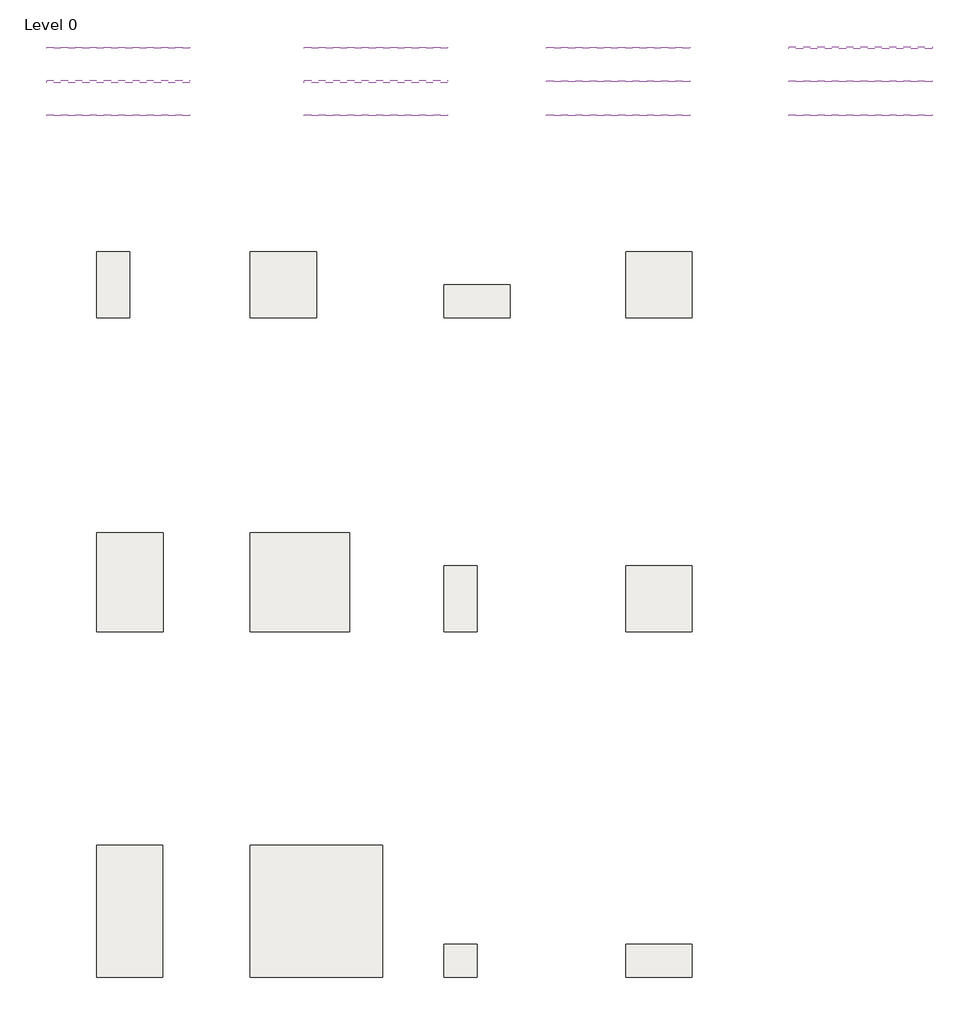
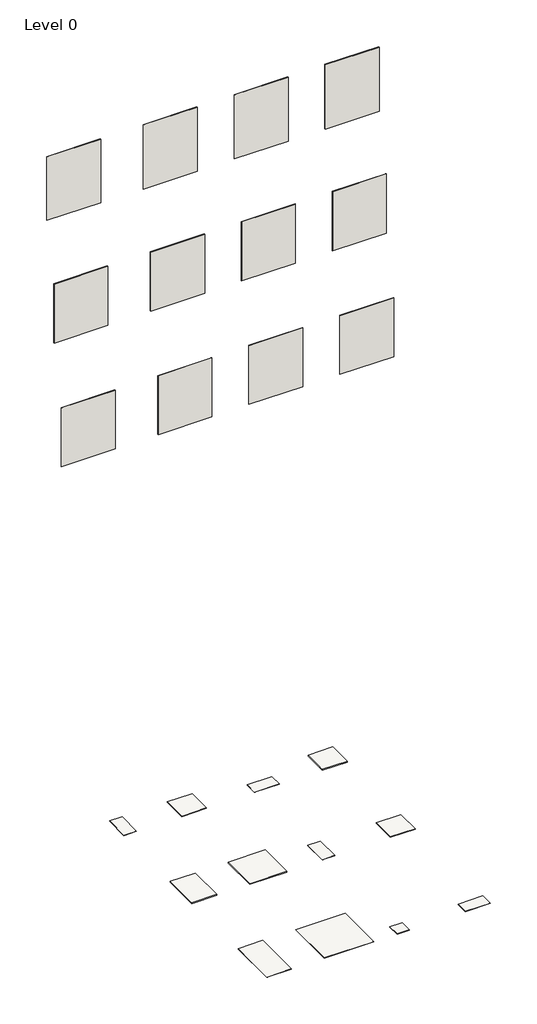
# One storey: 12 slabs, 12 walls.
"""IFC4 building model written with IfcOpenShell, lengths in millimetres."""

from ifc_helpers import new_model, si_unit, frame, origin, place, context, project, spatial, polyline, outline, extrude, element, save

model = new_model("IFC4")

# Units and contexts
model_context = context("Model", 3, world=origin())
ifc_project = project(units=[si_unit("LENGTHUNIT", "METRE", prefix="MILLI")], contexts=[model_context])

# Site, building, storey
site = spatial("IfcSite", under=ifc_project)
building = spatial("IfcBuilding", under=site)
storey = spatial("IfcBuildingStorey", under=building, Name="Level 0", Elevation=0.0)

# Slabs
placement = place(None, origin())
element("IfcSlab", 1, ObjectType="Floor_Tiles_Refin-Tune-Rock-Muretto-3D-30x60 MK49", at=placement, inside=storey, context=model_context, shape_type="SweptSolid", body=[
    extrude(outline(polyline([(10127.1861419, 5989.4623743), (10127.1861419, 5689.4623743), (9527.1861419, 5689.4623743), (9527.1861419, 5989.4623743), (10127.1861419, 5989.4623743)])), frame((0.0, 0.0, -11.0), z_axis=(0.0, 0.0, 1.0), x_axis=(1.0, 0.0, 0.0)), (0.0, 0.0, 1.0), 11.0),
])
element("IfcSlab", 2, ObjectType="Floor_Tiles_Refin-Tune-Rock-30x60 NB09", at=placement, inside=storey, context=model_context, shape_type="SweptSolid", body=[
    extrude(outline(polyline([(6674.3752062, 6289.4623743), (6674.3752062, 5689.4623743), (6374.3752062, 5689.4623743), (6374.3752062, 6289.4623743), (6674.3752062, 6289.4623743)])), frame((0.0, 0.0, -10.0), z_axis=(0.0, 0.0, 1.0), x_axis=(1.0, 0.0, 0.0)), (0.0, 0.0, 1.0), 10.0),
])
element("IfcSlab", 3, ObjectType="Floor_Tiles_Refin-Tune-Rock-OUT2.0-90x90 NA08", at=placement, inside=storey, context=model_context, shape_type="SweptSolid", body=[
    extrude(outline(polyline([(8667.3924055, 3739.4623743), (8667.3924055, 2839.4623743), (7767.3924055, 2839.4623743), (7767.3924055, 3739.4623743), (8667.3924055, 3739.4623743)])), frame((0.0, 0.0, -21.0), z_axis=(0.0, 0.0, 1.0), x_axis=(1.0, 0.0, 0.0)), (0.0, 0.0, 1.0), 21.0),
])
element("IfcSlab", 4, ObjectType="Floor_Tiles_Refin-Tune-Rock-OUT2.0-60x90 NH51", at=placement, inside=storey, context=model_context, shape_type="SweptSolid", body=[
    extrude(outline(polyline([(6974.3752062, 3739.4623743), (6974.3752062, 2839.4623743), (6374.3752062, 2839.4623743), (6374.3752062, 3739.4623743), (6974.3752062, 3739.4623743)])), frame((0.0, 0.0, -21.0), z_axis=(0.0, 0.0, 1.0), x_axis=(1.0, 0.0, 0.0)), (0.0, 0.0, 1.0), 21.0),
])
element("IfcSlab", 5, ObjectType="Floor_Tiles_Refin-Tune-Rock-60x60 NB21", at=placement, inside=storey, context=model_context, shape_type="SweptSolid", body=[
    extrude(outline(polyline([(8367.3924055, 6288.4192064), (8367.3924055, 5688.4192064), (7767.3924055, 5688.4192064), (7767.3924055, 6288.4192064), (8367.3924055, 6288.4192064)])), frame((0.0, 0.0, -10.0), z_axis=(0.0, 0.0, 1.0), x_axis=(1.0, 0.0, 0.0)), (0.0, 0.0, 1.0), 10.0),
])
element("IfcSlab", 6, ObjectType="Floor_Tiles_Refin-Tune-Rock-Soft-60x120 NA88", at=placement, inside=storey, context=model_context, shape_type="SweptSolid", body=[
    extrude(outline(polyline([(6972.6009331, 903.4367235), (6972.6009331, -296.5632765), (6372.6009331, -296.5632765), (6372.6009331, 903.4367235), (6972.6009331, 903.4367235)])), frame((0.0, 0.0, -10.0), z_axis=(0.0, 0.0, 1.0), x_axis=(1.0, 0.0, 0.0)), (0.0, 0.0, 1.0), 10.0),
])
element("IfcSlab", 7, ObjectType="Floor_Tiles_Refin-Tune-Rock-OUT2.0-60x60 NH55", at=placement, inside=storey, context=model_context, shape_type="SweptSolid", body=[
    extrude(outline(polyline([(11777.1861419, 6289.4623743), (11777.1861419, 5689.4623743), (11177.1861419, 5689.4623743), (11177.1861419, 6289.4623743), (11777.1861419, 6289.4623743)])), frame((0.0, 0.0, -21.0), z_axis=(0.0, 0.0, 1.0), x_axis=(1.0, 0.0, 0.0)), (0.0, 0.0, 1.0), 21.0),
])
element("IfcSlab", 8, ObjectType="Floor_Tiles_Refin-Tune-Rock-Soft-30x60 NB10", at=placement, inside=storey, context=model_context, shape_type="SweptSolid", body=[
    extrude(outline(polyline([(9827.1861419, 3439.4623743), (9827.1861419, 2839.4623743), (9527.1861419, 2839.4623743), (9527.1861419, 3439.4623743), (9827.1861419, 3439.4623743)])), frame((0.0, 0.0, -10.0), z_axis=(0.0, 0.0, 1.0), x_axis=(1.0, 0.0, 0.0)), (0.0, 0.0, 1.0), 10.0),
])
element("IfcSlab", 9, ObjectType="Floor_Tiles_Refin-Tune-Rock-Mosaico-Soft-30x30 NA43", at=placement, inside=storey, context=model_context, shape_type="SweptSolid", body=[
    extrude(outline(polyline([(9827.1861419, 3.4367235), (9827.1861419, -296.5632765), (9527.1861419, -296.5632765), (9527.1861419, 3.4367235), (9827.1861419, 3.4367235)])), frame((0.0, 0.0, -10.0), z_axis=(0.0, 0.0, 1.0), x_axis=(1.0, 0.0, 0.0)), (0.0, 0.0, 1.0), 10.0),
])
element("IfcSlab", 10, ObjectType="Floor_Tiles_Refin-Tune-Rock-Soft-60x60 NB22", at=placement, inside=storey, context=model_context, shape_type="SweptSolid", body=[
    extrude(outline(polyline([(11777.1861419, 3439.4623743), (11777.1861419, 2839.4623743), (11177.1861419, 2839.4623743), (11177.1861419, 3439.4623743), (11777.1861419, 3439.4623743)])), frame((0.0, 0.0, -10.0), z_axis=(0.0, 0.0, 1.0), x_axis=(1.0, 0.0, 0.0)), (0.0, 0.0, 1.0), 10.0),
])
element("IfcSlab", 11, ObjectType="Floor_Tiles_Refin-Tune-Rock-Soft-120x120 MK15", at=placement, inside=storey, context=model_context, shape_type="SweptSolid", body=[
    extrude(outline(polyline([(8967.3924055, 903.4367235), (8967.3924055, -296.5632765), (7767.3924055, -296.5632765), (7767.3924055, 903.4367235), (8967.3924055, 903.4367235)])), frame((0.0, 0.0, -10.0), z_axis=(0.0, 0.0, 1.0), x_axis=(1.0, 0.0, 0.0)), (0.0, 0.0, 1.0), 10.0),
])
element("IfcSlab", 12, ObjectType="Floor_Tiles_Refin-Tune-Rock-Mosaico-Linea-Soft-30x60 NA22", at=placement, inside=storey, context=model_context, shape_type="SweptSolid", body=[
    extrude(outline(polyline([(11777.1861419, 3.4367235), (11777.1861419, -296.5632765), (11177.1861419, -296.5632765), (11177.1861419, 3.4367235), (11777.1861419, 3.4367235)])), frame((0.0, 0.0, -10.0), z_axis=(0.0, 0.0, 1.0), x_axis=(1.0, 0.0, 0.0)), (0.0, 0.0, 1.0), 10.0),
])

# Walls
element("IfcWall", 13, ObjectType="Wall_Tiles_Refin-Tune-Rock-60x60 NB21", at=placement, inside=storey, context=model_context, shape_type="SweptSolid", body=[
    extrude(outline(polyline([(9557.3752062, 8132.3838631), (8257.3752062, 8132.3838631), (8257.3752062, 8142.3838631), (9557.3752062, 8142.3838631), (9557.3752062, 8132.3838631)])), frame((0.0, 0.0, 14387.6770443), z_axis=(0.0, 0.0, 1.0), x_axis=(1.0, 0.0, 0.0)), (0.0, 0.0, 1.0), 1641.7417352),
])
element("IfcWall", 14, ObjectType="Wall_Tiles_Refin-Tune-Rock-Muretto-3D-30x60 MK49", at=placement, inside=storey, context=model_context, shape_type="SweptSolid", body=[
    extrude(outline(polyline([(11757.3752062, 8131.8838631), (10457.3752062, 8131.8838631), (10457.3752062, 8142.8838631), (11757.3752062, 8142.8838631), (11757.3752062, 8131.8838631)])), frame((0.0, 0.0, 14387.6770443), z_axis=(0.0, 0.0, 1.0), x_axis=(1.0, 0.0, 0.0)), (0.0, 0.0, 1.0), 1641.7417352),
])
element("IfcWall", 15, ObjectType="Wall_Tiles_Refin-Tune-Rock-30x60 NB09", at=placement, inside=storey, context=model_context, shape_type="SweptSolid", body=[
    extrude(outline(polyline([(7217.3752062, 8132.3838631), (5917.3752062, 8132.3838631), (5917.3752062, 8142.3838631), (7217.3752062, 8142.3838631), (7217.3752062, 8132.3838631)])), frame((0.0, 0.0, 14403.7267346), z_axis=(0.0, 0.0, 1.0), x_axis=(1.0, 0.0, 0.0)), (0.0, 0.0, 1.0), 1625.692045),
])
element("IfcWall", 16, ObjectType="Wall_Tiles_Refin-Tune-Rock-OUT2.0-60x90 NH51", at=placement, inside=storey, context=model_context, shape_type="SweptSolid", body=[
    extrude(outline(polyline([(7217.3752062, 7821.8838631), (5917.3752062, 7821.8838631), (5917.3752062, 7842.8838631), (7217.3752062, 7842.8838631), (7217.3752062, 7821.8838631)])), frame((0.0, 0.0, 11452.5436262), z_axis=(0.0, 0.0, 1.0), x_axis=(1.0, 0.0, 0.0)), (0.0, 0.0, 1.0), 1513.1985566),
])
element("IfcWall", 17, ObjectType="Wall_Tiles_Refin-Tune-Rock-OUT2.0-90x90 NA08", at=placement, inside=storey, context=model_context, shape_type="SweptSolid", body=[
    extrude(outline(polyline([(9557.3752062, 7821.8838631), (8257.3752062, 7821.8838631), (8257.3752062, 7842.8838631), (9557.3752062, 7842.8838631), (9557.3752062, 7821.8838631)])), frame((0.0, 0.0, 11452.5436262), z_axis=(0.0, 0.0, 1.0), x_axis=(1.0, 0.0, 0.0)), (0.0, 0.0, 1.0), 1513.1985566),
])
element("IfcWall", 18, ObjectType="Wall_Tiles_Refin-Tune-Rock-Soft-30x60 NB10", at=placement, inside=storey, context=model_context, shape_type="SweptSolid", body=[
    extrude(outline(polyline([(11757.3752062, 7827.3838631), (10457.3752062, 7827.3838631), (10457.3752062, 7837.3838631), (11757.3752062, 7837.3838631), (11757.3752062, 7827.3838631)])), frame((0.0, 0.0, 11452.5436262), z_axis=(0.0, 0.0, 1.0), x_axis=(1.0, 0.0, 0.0)), (0.0, 0.0, 1.0), 1513.1985566),
])
element("IfcWall", 19, ObjectType="Wall_Tiles_Refin-Tune-Rock-Soft-60x120 NA88", at=placement, inside=storey, context=model_context, shape_type="SweptSolid", body=[
    extrude(outline(polyline([(7217.3752062, 7522.3838631), (5917.3752062, 7522.3838631), (5917.3752062, 7532.3838631), (7217.3752062, 7532.3838631), (7217.3752062, 7522.3838631)])), frame((0.0, 0.0, 8479.1027214), z_axis=(0.0, 0.0, 1.0), x_axis=(1.0, 0.0, 0.0)), (0.0, 0.0, 1.0), 1502.5740159),
])
element("IfcWall", 20, ObjectType="Wall_Tiles_Refin-Tune-Rock-Soft-120x120 MK15", at=placement, inside=storey, context=model_context, shape_type="SweptSolid", body=[
    extrude(outline(polyline([(9557.3752062, 7522.3838631), (8257.3752062, 7522.3838631), (8257.3752062, 7532.3838631), (9557.3752062, 7532.3838631), (9557.3752062, 7522.3838631)])), frame((0.0, 0.0, 8479.1027214), z_axis=(0.0, 0.0, 1.0), x_axis=(1.0, 0.0, 0.0)), (0.0, 0.0, 1.0), 1502.5740159),
])
element("IfcWall", 21, ObjectType="Wall_Tiles_Refin-Tune-Rock-Mosaico-Soft-30x30 NA43", at=placement, inside=storey, context=model_context, shape_type="SweptSolid", body=[
    extrude(outline(polyline([(11757.3752062, 7522.3838631), (10457.3752062, 7522.3838631), (10457.3752062, 7532.3838631), (11757.3752062, 7532.3838631), (11757.3752062, 7522.3838631)])), frame((0.0, 0.0, 8479.1027214), z_axis=(0.0, 0.0, 1.0), x_axis=(1.0, 0.0, 0.0)), (0.0, 0.0, 1.0), 1502.5740159),
])
element("IfcWall", 22, ObjectType="Wall_Tiles_Refin-Tune-Rock-OUT2.0-60x60 NH55", at=placement, inside=storey, context=model_context, shape_type="SweptSolid", body=[
    extrude(outline(polyline([(13957.3752062, 8126.8838631), (12657.3752062, 8126.8838631), (12657.3752062, 8147.8838631), (13957.3752062, 8147.8838631), (13957.3752062, 8126.8838631)])), frame((0.0, 0.0, 14387.6770443), z_axis=(0.0, 0.0, 1.0), x_axis=(1.0, 0.0, 0.0)), (0.0, 0.0, 1.0), 1641.7417352),
])
element("IfcWall", 23, ObjectType="Wall_Tiles_Refin-Tune-Rock-Soft-60x60 NB22", at=placement, inside=storey, context=model_context, shape_type="SweptSolid", body=[
    extrude(outline(polyline([(13957.3752062, 7827.3838631), (12657.3752062, 7827.3838631), (12657.3752062, 7837.3838631), (13957.3752062, 7837.3838631), (13957.3752062, 7827.3838631)])), frame((0.0, 0.0, 11452.5436262), z_axis=(0.0, 0.0, 1.0), x_axis=(1.0, 0.0, 0.0)), (0.0, 0.0, 1.0), 1513.1985566),
])
element("IfcWall", 24, ObjectType="Wall_Tiles_Refin-Tune-Rock-Mosaico-Linea-Soft-30x60 NA22", at=placement, inside=storey, context=model_context, shape_type="SweptSolid", body=[
    extrude(outline(polyline([(13957.3752062, 7522.3838631), (12657.3752062, 7522.3838631), (12657.3752062, 7532.3838631), (13957.3752062, 7532.3838631), (13957.3752062, 7522.3838631)])), frame((0.0, 0.0, 8479.1027214), z_axis=(0.0, 0.0, 1.0), x_axis=(1.0, 0.0, 0.0)), (0.0, 0.0, 1.0), 1502.5740159),
])

save(model, "model.ifc")
